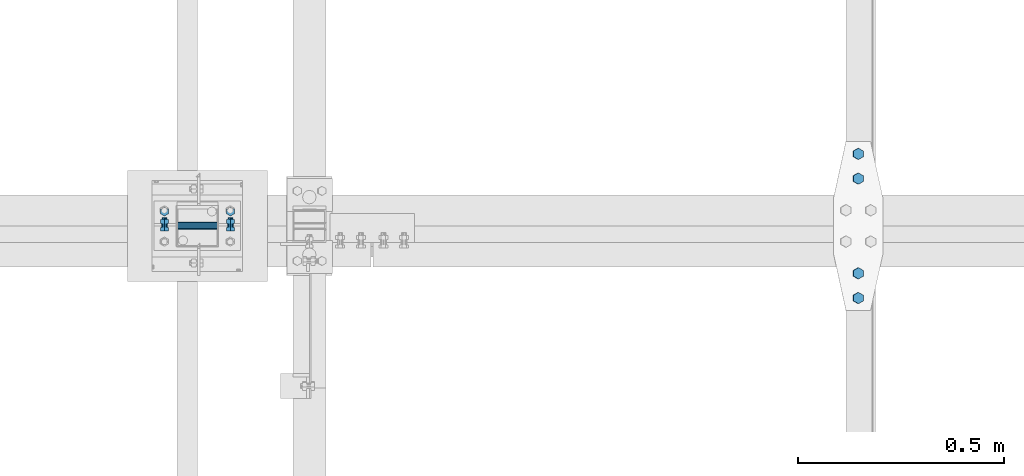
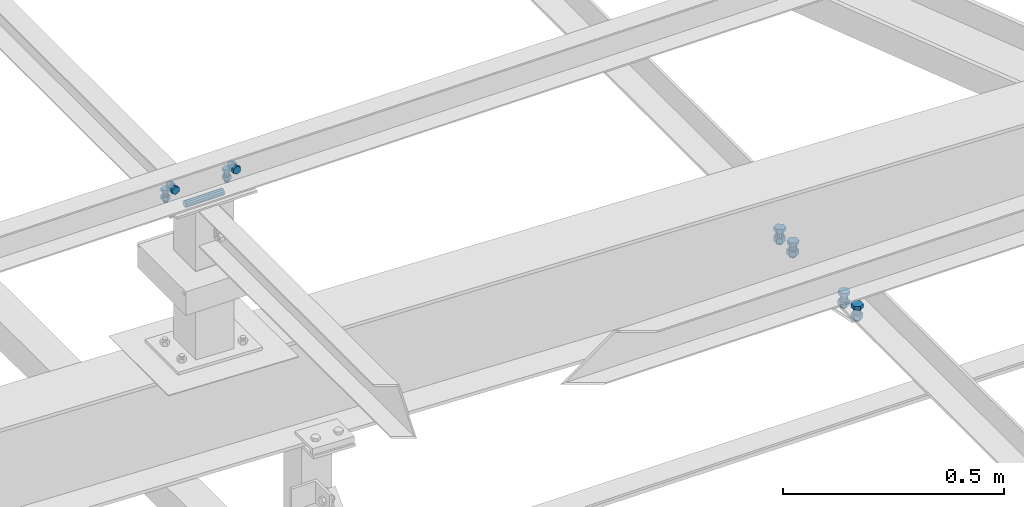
# One storey, part 40 of 3134: 5 mechanical fasteners, 4 elements without a shape of their own.
"""IFC2X3 building model written with IfcOpenShell, lengths in millimetres."""

import ifcopenshell
import ifcopenshell.guid

model = None  # the IFC model being written
_history = None  # IfcOwnerHistory: only IFC2X3 demands one
_inside = {}  # id of a spatial element -> (the spatial element, [elements in it])
_under = {}  # id of a project, library or spatial element -> (it, [spatial elements below it])
_declared = {}  # id of a project -> (the project, [libraries it declares])
_typed = {}  # id of a type object -> (the type object, [elements of that type])
_made_of = {}  # id of a material, layer set ... -> (it, [elements and type objects made of it])


def new_model(schema):
    """Start an empty IFC model of exactly this schema.

    Asked for "IFC4X3", IfcOpenShell would pick the latest addendum, in which some entities
    have other attributes; the version numbers below select the first issue.
    IFC2X3 requires an IfcOwnerHistory on every rooted entity: one is made here for all.
    """
    global model, _history
    if schema == "IFC4X3":
        model = ifcopenshell.file(schema_version=(4, 3, 0, 0))
    else:
        model = ifcopenshell.file(schema=schema)
    _inside.clear()
    _under.clear()
    _declared.clear()
    _typed.clear()
    _made_of.clear()
    _history = None
    if model.schema == "IFC2X3":
        org = make("IfcOrganization", Name="unknown")
        user = make(
            "IfcPersonAndOrganization",
            ThePerson=make("IfcPerson", FamilyName="unknown"),
            TheOrganization=org,
        )
        app = make(
            "IfcApplication",
            ApplicationDeveloper=org,
            Version="unknown",
            ApplicationFullName="unknown",
            ApplicationIdentifier="unknown",
        )
        _history = make(
            "IfcOwnerHistory",
            OwningUser=user,
            OwningApplication=app,
            ChangeAction="ADDED",
            CreationDate=0,
        )
    return model


def make(cls, **values):
    """One entity of the class cls with the attributes given. An attribute that is None is left unset."""
    return model.create_entity(
        cls, **{name: value for name, value in values.items() if value is not None}
    )


def rooted(cls, **values):
    """An entity with a GlobalId (a new one), such as an element, a storey or a relation."""
    return make(cls, GlobalId=ifcopenshell.guid.new(), OwnerHistory=_history, **values)


def si_unit(unit_type, name, prefix=None):
    """IfcSIUnit, for example si_unit("LENGTHUNIT", "METRE", prefix="MILLI")."""
    return make("IfcSIUnit", UnitType=unit_type, Prefix=prefix, Name=name)


def assignment(units):
    """IfcUnitAssignment: the units of a project."""
    return None if units is None else make("IfcUnitAssignment", Units=units)


def point(xyz):
    """IfcCartesianPoint."""
    return None if xyz is None else make("IfcCartesianPoint", Coordinates=xyz)


def direction(xyz):
    """IfcDirection."""
    return None if xyz is None else make("IfcDirection", DirectionRatios=xyz)


def frame(location, z_axis=None, x_axis=None):
    """IfcAxis2Placement3D, a coordinate frame: its origin and axes. An axis left out is left unset."""
    return make(
        "IfcAxis2Placement3D",
        Location=point(location),
        Axis=direction(z_axis),
        RefDirection=direction(x_axis),
    )


def origin_with_axes():
    """The frame at (0, 0, 0) with the z axis (0, 0, 1) and the x axis (1, 0, 0) written out."""
    return frame((0.0, 0.0, 0.0), z_axis=(0.0, 0.0, 1.0), x_axis=(1.0, 0.0, 0.0))


def place(relative_to, where):
    """IfcLocalPlacement: puts the frame where relative to a parent placement (None: the world)."""
    return make(
        "IfcLocalPlacement", PlacementRelTo=relative_to, RelativePlacement=where
    )


def context(
    kind, dimensions, precision=None, world=None, true_north=None, identifier=None
):
    """IfcGeometricRepresentationContext, for example the 3D "Model" context."""
    return make(
        "IfcGeometricRepresentationContext",
        ContextIdentifier=identifier,
        ContextType=kind,
        CoordinateSpaceDimension=dimensions,
        Precision=precision,
        WorldCoordinateSystem=world,
        TrueNorth=true_north,
    )


def subcontext(parent, identifier, kind, view, scale=None):
    """IfcGeometricRepresentationSubContext, for example "Body" below "Model"."""
    return make(
        "IfcGeometricRepresentationSubContext",
        ContextIdentifier=identifier,
        ContextType=kind,
        ParentContext=parent,
        TargetScale=scale,
        TargetView=view,
    )


def project(units=None, contexts=None):
    """IfcProject with its units and contexts."""
    return rooted(
        "IfcProject",
        Name="project",
        RepresentationContexts=contexts,
        UnitsInContext=assignment(units),
    )


def spatial(cls, under=None, at=None, **own):
    """A site, building, storey or space (cls), placed at a placement, below another one or the project."""
    s = rooted(cls, ObjectPlacement=at, **own)
    if under is not None:
        _under.setdefault(under.id(), (under, []))[1].append(s)
    return s


def faces_of(points, faces, orient=None, outer=None):
    """IfcFace entities. A face is a list of loops; a loop is a list of indices into points, from 0.

    orient and outer hold one flag for each loop. By default every Orientation is true, the
    first loop of a face is its IfcFaceOuterBound and the others are IfcFaceBound.
    """
    made = []
    for i, loops in enumerate(faces):
        bounds = []
        for j, loop in enumerate(loops):
            is_outer = j == 0 if outer is None else outer[i][j]
            bounds.append(
                make(
                    "IfcFaceOuterBound" if is_outer else "IfcFaceBound",
                    Bound=make("IfcPolyLoop", Polygon=[points[k] for k in loop]),
                    Orientation=True if orient is None else orient[i][j],
                )
            )
        made.append(make("IfcFace", Bounds=bounds))
    return made


def faceted_brep(points, faces, orient=None, outer=None, voids=None):
    """IfcFacetedBrep: a solid bounded by flat faces; with voids (closed shells), ...WithVoids."""
    shared = [point(p) for p in points]
    hull = make("IfcClosedShell", CfsFaces=faces_of(shared, faces, orient, outer))
    if voids is None:
        return make("IfcFacetedBrep", Outer=hull)
    return make(
        "IfcFacetedBrepWithVoids",
        Outer=hull,
        Voids=[
            make(cls, CfsFaces=faces_of(shared, fs, o, b)) for cls, fs, o, b in voids
        ],
    )


def shape(context_of_items, identifier, shape_type, items):
    """IfcShapeRepresentation: the items that make up one representation, for example the "Body"."""
    return make(
        "IfcShapeRepresentation",
        ContextOfItems=context_of_items,
        RepresentationIdentifier=identifier,
        RepresentationType=shape_type,
        Items=items,
    )


def source(mapping_origin, context_of_items, identifier, shape_type, items):
    """IfcRepresentationMap: a shape defined once, which mapped items show again and again."""
    return make(
        "IfcRepresentationMap",
        MappingOrigin=mapping_origin,
        MappedRepresentation=shape(context_of_items, identifier, shape_type, items),
    )


def transform(
    local_origin,
    x_axis=None,
    y_axis=None,
    z_axis=None,
    scale=None,
    scale2=None,
    scale3=None,
    uniform=True,
):
    """IfcCartesianTransformationOperator3D, or its non-uniform kind. x_axis, y_axis, z_axis: its Axis1, 2, 3."""
    if uniform:
        return make(
            "IfcCartesianTransformationOperator3D",
            Axis1=direction(x_axis),
            Axis2=direction(y_axis),
            LocalOrigin=point(local_origin),
            Scale=scale,
            Axis3=direction(z_axis),
        )
    return make(
        "IfcCartesianTransformationOperator3DnonUniform",
        Axis1=direction(x_axis),
        Axis2=direction(y_axis),
        LocalOrigin=point(local_origin),
        Scale=scale,
        Axis3=direction(z_axis),
        Scale2=scale2,
        Scale3=scale3,
    )


def mapped(mapping_source, mapping_target):
    """IfcMappedItem: shows the shape of a source again, moved by a transform."""
    return make(
        "IfcMappedItem", MappingSource=mapping_source, MappingTarget=mapping_target
    )


def material(Name=None, Category=None):
    """IfcMaterial."""
    return make("IfcMaterial", Name=Name, Category=Category)


def made_of(thing, what):
    """Note that an element or type object is made of a material, layer set ...; save() writes the relation."""
    if what is not None:
        _made_of.setdefault(what.id(), (what, []))[1].append(thing)
    return thing


def type_object(cls, material=None, **own):
    """A type object (cls), such as IfcWallType, which elements share."""
    return made_of(rooted(cls, **own), material)


def element(
    cls,
    number,
    at=None,
    inside=None,
    cuts=None,
    type_object=None,
    material=None,
    context=None,
    identifier="Body",
    shape_type=None,
    held_by="IfcProductDefinitionShape",
    body=None,
    shapes=None,
    **own,
):
    """One element of the class cls, such as IfcWall. Its Tag is "e" and its number.

    at: its placement. inside: the storey or other place that contains it. cuts: it is an
    opening in that element (IfcRelVoidsElement). A single representation is given by context,
    identifier, shape_type and body (its items); several are given by shapes. held_by: the class
    of the entity that holds the representations. save() writes the other relations.
    """
    e = rooted(cls, Tag="e%d" % number, ObjectPlacement=at, **own)
    if body is not None:
        shapes = [shape(context, identifier, shape_type, body)]
    if shapes is not None:
        e.Representation = make(held_by, Representations=shapes)
    if inside is not None:
        _inside.setdefault(inside.id(), (inside, []))[1].append(e)
    if cuts is not None:
        rooted(
            "IfcRelVoidsElement", RelatingBuildingElement=cuts, RelatedOpeningElement=e
        )
    if type_object is not None:
        _typed.setdefault(type_object.id(), (type_object, []))[1].append(e)
    return made_of(e, material)


def aggregate(whole, parts):
    """IfcRelAggregates: a whole, such as a stair, and the parts it consists of."""
    return rooted("IfcRelAggregates", RelatingObject=whole, RelatedObjects=parts)


def save(model, path):
    """Write the relations noted so far, then the file.

    IfcRelAggregates (storeys below a building ...), IfcRelContainedInSpatialStructure (elements
    in a storey), IfcRelDefinesByType, IfcRelAssociatesMaterial and IfcRelDeclares: one each for
    every whole, place, type object, material and project.
    """
    for whole, parts in _under.values():
        aggregate(whole, parts)
    for where, things in _inside.values():
        rooted(
            "IfcRelContainedInSpatialStructure",
            RelatedElements=things,
            RelatingStructure=where,
        )
    for kind, things in _typed.values():
        rooted("IfcRelDefinesByType", RelatedObjects=things, RelatingType=kind)
    for what, things in _made_of.values():
        rooted("IfcRelAssociatesMaterial", RelatedObjects=things, RelatingMaterial=what)
    for by, libraries in _declared.values():
        rooted("IfcRelDeclares", RelatingContext=by, RelatedDefinitions=libraries)
    model.write(path)


model = new_model("IFC2X3")

# Units and contexts
model_context = context("Model", 3, precision=1e-05, world=origin_with_axes())
body_context = subcontext(model_context, "Body", "Model", "MODEL_VIEW")
ifc_project = project(units=[si_unit("LENGTHUNIT", "METRE", prefix="MILLI"), si_unit("AREAUNIT", "SQUARE_METRE"), si_unit("VOLUMEUNIT", "CUBIC_METRE"), si_unit("MASSUNIT", "GRAM", prefix="KILO"), si_unit("TIMEUNIT", "SECOND"), si_unit("PLANEANGLEUNIT", "RADIAN"), si_unit("SOLIDANGLEUNIT", "STERADIAN"), si_unit("THERMODYNAMICTEMPERATUREUNIT", "DEGREE_CELSIUS"), si_unit("LUMINOUSINTENSITYUNIT", "LUMEN")], contexts=[model_context])

# Site, building, storey
site_placement = place(None, origin_with_axes())
site = spatial("IfcSite", under=ifc_project, at=site_placement, CompositionType="ELEMENT")
building_placement = place(site_placement, origin_with_axes())
building = spatial("IfcBuilding", under=site, at=building_placement, Name="Undefined", CompositionType="ELEMENT")
storey_placement = place(building_placement, origin_with_axes())
storey = spatial("IfcBuildingStorey", under=building, at=storey_placement, Name="Undefined", CompositionType="ELEMENT", Elevation=0.0)

# Assembly, mechanical fastener
assembly_1_placement = place(storey_placement, origin_with_axes())
assembly_1 = element("IfcElementAssembly", 1, at=assembly_1_placement, inside=storey, AssemblyPlace="NOTDEFINED", PredefinedType="RIGID_FRAME")
ifc_material = material(Name="8.8")
mechanical_fastener_type = type_object("IfcMechanicalFastenerType", Name="Bolt assembly")
shared_shape_1 = source(origin_with_axes(), body_context, "Body", "Brep", [
    faceted_brep([(10.9696551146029, -14.0, 0.0), (5.48482755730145, -14.0, 9.5), (-5.48482755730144, -14.0, 9.5), (-10.9696551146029, -14.0, 1.34339530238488e-15), (-5.48482755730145, -14.0, -9.5), (5.48482755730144, -14.0, -9.50000000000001), (5.48482755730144, -6.0, -9.50000000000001), (-5.48482755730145, -6.0, -9.5), (-10.9696551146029, -6.0, 1.34339530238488e-15), (-5.48482755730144, -6.0, 9.5), (5.48482755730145, -6.0, 9.5), (10.9696551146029, -6.0, 0.0), (6.0, -6.0, 0.0), (5.19615242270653, -6.0, 3.00000000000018), (2.99999999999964, -6.0, 5.19615242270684), (-6.21801588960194e-13, -6.0, 6.0), (-3.00000000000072, -6.0, 5.19615242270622), (-5.19615242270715, -6.0, 2.9999999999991), (-6.0, -6.0, -1.24360317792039e-12), (-5.19615242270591, -6.0, -3.00000000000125), (-2.99999999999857, -6.0, -5.19615242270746), (1.85874342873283e-12, -6.0, -6.0), (3.00000000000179, -6.0, -5.1961524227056), (5.19615242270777, -6.0, -2.99999999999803), (5.19615242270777, 24.0, -2.99999999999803), (3.00000000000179, 24.0, -5.1961524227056), (1.85874342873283e-12, 24.0, -6.0), (-2.99999999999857, 24.0, -5.19615242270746), (-5.19615242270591, 24.0, -3.00000000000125), (-6.0, 24.0, -1.24360317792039e-12), (-5.19615242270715, 24.0, 2.9999999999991), (-3.00000000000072, 24.0, 5.19615242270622), (-6.21801588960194e-13, 24.0, 6.0), (2.99999999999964, 24.0, 5.19615242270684), (5.19615242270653, 24.0, 3.00000000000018), (6.0, 24.0, 0.0), (10.9696551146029, 6.00000000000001, 0.0), (5.48482755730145, 6.00000000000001, 9.5), (-5.48482755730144, 6.00000000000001, 9.5), (-10.9696551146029, 6.00000000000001, 1.34339530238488e-15), (-5.48482755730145, 6.00000000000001, -9.5), (5.48482755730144, 6.00000000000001, -9.50000000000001), (5.48482755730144, 16.0, -9.50000000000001), (-5.48482755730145, 16.0, -9.5), (-10.9696551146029, 16.0, 1.34339530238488e-15), (-5.48482755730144, 16.0, 9.5), (5.48482755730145, 16.0, 9.5), (10.9696551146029, 16.0, 0.0)], [[[0, 1, 2, 3, 4, 5]], [[6, 7, 8, 9, 10, 11]], [[0, 11, 10, 1]], [[1, 10, 9, 2]], [[2, 9, 8, 3]], [[3, 8, 7, 4]], [[4, 7, 6, 5]], [[5, 6, 11, 0]], [[12, 13, 14, 15, 16, 17, 18, 19, 20, 21, 22, 23]], [[24, 25, 26, 27, 28, 29, 30, 31, 32, 33, 34, 35]], [[12, 35, 34, 13]], [[13, 34, 33, 14]], [[14, 33, 32, 15]], [[15, 32, 31, 16]], [[16, 31, 30, 17]], [[17, 30, 29, 18]], [[18, 29, 28, 19]], [[19, 28, 27, 20]], [[20, 27, 26, 21]], [[21, 26, 25, 22]], [[22, 25, 24, 23]], [[23, 24, 35, 12]], [[36, 37, 38, 39, 40, 41]], [[42, 43, 44, 45, 46, 47]], [[36, 47, 46, 37]], [[37, 46, 45, 38]], [[38, 45, 44, 39]], [[39, 44, 43, 40]], [[40, 43, 42, 41]], [[41, 42, 47, 36]]]),
    faceted_brep([(7.0, -0.1, 0.0), (6.06217782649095, -0.1, 3.50000000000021), (3.49999999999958, -0.1, 6.06217782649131), (-7.25435187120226e-13, -0.1, 7.0), (-3.50000000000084, -0.1, 6.06217782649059), (-6.06217782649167, -0.1, 3.49999999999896), (-7.0, -0.1, -1.45087037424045e-12), (-6.06217782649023, -0.1, -3.50000000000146), (-3.49999999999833, -0.1, -6.06217782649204), (2.1685340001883e-12, -0.1, -7.0), (3.50000000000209, -0.1, -6.06217782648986), (6.0621778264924, -0.1, -3.4999999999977), (6.0621778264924, 6.00000000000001, -3.4999999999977), (3.50000000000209, 6.00000000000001, -6.06217782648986), (2.1685340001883e-12, 6.00000000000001, -7.0), (-3.49999999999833, 6.00000000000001, -6.06217782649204), (-6.06217782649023, 6.00000000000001, -3.50000000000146), (-7.0, 6.00000000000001, -1.45087037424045e-12), (-6.06217782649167, 6.00000000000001, 3.49999999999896), (-3.50000000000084, 6.00000000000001, 6.06217782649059), (-7.25435187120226e-13, 6.00000000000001, 7.0), (3.49999999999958, 6.00000000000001, 6.06217782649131), (6.06217782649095, 6.00000000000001, 3.50000000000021), (7.0, 6.00000000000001, 0.0), (7.0, -5.9, 0.0), (6.06217782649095, -5.9, 3.50000000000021), (3.49999999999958, -5.9, 6.06217782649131), (-7.25435187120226e-13, -5.9, 7.0), (-3.50000000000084, -5.9, 6.06217782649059), (-6.06217782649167, -5.9, 3.49999999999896), (-7.0, -5.9, -1.45087037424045e-12), (-6.06217782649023, -5.9, -3.50000000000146), (-3.49999999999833, -5.9, -6.06217782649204), (2.1685340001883e-12, -5.9, -7.0), (3.50000000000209, -5.9, -6.06217782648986), (6.0621778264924, -5.9, -3.4999999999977), (6.0621778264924, 0.0999999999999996, -3.4999999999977), (3.50000000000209, 0.0999999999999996, -6.06217782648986), (2.1685340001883e-12, 0.0999999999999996, -7.0), (-3.49999999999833, 0.0999999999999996, -6.06217782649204), (-6.06217782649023, 0.0999999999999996, -3.50000000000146), (-7.0, 0.0999999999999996, -1.45087037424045e-12), (-6.06217782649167, 0.0999999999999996, 3.49999999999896), (-3.50000000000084, 0.0999999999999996, 6.06217782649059), (-7.25435187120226e-13, 0.0999999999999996, 7.0), (3.49999999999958, 0.0999999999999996, 6.06217782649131), (6.06217782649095, 0.0999999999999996, 3.50000000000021), (7.0, 0.0999999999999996, 0.0)], [[[0, 1, 2, 3, 4, 5, 6, 7, 8, 9, 10, 11]], [[12, 13, 14, 15, 16, 17, 18, 19, 20, 21, 22, 23]], [[0, 23, 22, 1]], [[1, 22, 21, 2]], [[2, 21, 20, 3]], [[3, 20, 19, 4]], [[4, 19, 18, 5]], [[5, 18, 17, 6]], [[6, 17, 16, 7]], [[7, 16, 15, 8]], [[8, 15, 14, 9]], [[9, 14, 13, 10]], [[10, 13, 12, 11]], [[11, 12, 23, 0]], [[24, 25, 26, 27, 28, 29, 30, 31, 32, 33, 34, 35]], [[36, 37, 38, 39, 40, 41, 42, 43, 44, 45, 46, 47]], [[24, 47, 46, 25]], [[25, 46, 45, 26]], [[26, 45, 44, 27]], [[27, 44, 43, 28]], [[28, 43, 42, 29]], [[29, 42, 41, 30]], [[30, 41, 40, 31]], [[31, 40, 39, 32]], [[32, 39, 38, 33]], [[33, 38, 37, 34]], [[34, 37, 36, 35]], [[35, 36, 47, 24]]]),
])
mechanical_fastener_1_placement = place(assembly_1_placement, frame((3043.33, 15225.0, 4365.0), z_axis=(1.0, 0.0, 0.0), x_axis=(0.0, -1.0, 0.0)))
mechanical_fastener_1 = element("IfcMechanicalFastener", 2, at=mechanical_fastener_1_placement, type_object=mechanical_fastener_type, material=ifc_material, Name="Bolt assembly", NominalDiameter=12.0, NominalLength=30.0, context=body_context, shape_type="MappedRepresentation", body=[
    mapped(shared_shape_1, transform((0.0, -5.32963895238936e-10, -79.9999999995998))),
    mapped(shared_shape_1, transform((0.0, 5.3114490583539e-10, 79.9999999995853))),
])

assembly_2_placement = place(storey_placement, origin_with_axes())
assembly_2 = element("IfcElementAssembly", 3, at=assembly_2_placement, inside=storey, Name="PL8", AssemblyPlace="NOTDEFINED", PredefinedType="RIGID_FRAME")
shared_shape_2 = source(origin_with_axes(), body_context, "Body", "Brep", [
    faceted_brep([(13.856406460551, -21.0000017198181, 0.0), (6.92820323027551, -21.0000017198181, 12.0), (-6.92820323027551, -21.0000017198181, 12.0), (-13.856406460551, -21.0000017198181, 1.69692038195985e-15), (-6.92820323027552, -21.0000017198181, -12.0), (6.9282032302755, -21.0000017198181, -12.0), (6.9282032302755, -11.0000017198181, -12.0), (-6.92820323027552, -11.0000017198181, -12.0), (-13.856406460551, -11.0000017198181, 1.69692038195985e-15), (-6.92820323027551, -11.0000017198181, 12.0), (6.92820323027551, -11.0000017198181, 12.0), (13.856406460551, -11.0000017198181, 0.0), (8.0, -11.0000017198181, 0.0), (6.92820323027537, -11.0000017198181, 4.00000000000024), (3.99999999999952, -11.0000017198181, 6.92820323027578), (-8.29068785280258e-13, -11.0000017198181, 8.0), (-4.00000000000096, -11.0000017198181, 6.92820323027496), (-6.9282032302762, -11.0000017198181, 3.99999999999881), (-8.0, -11.0000017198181, -1.65813757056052e-12), (-6.92820323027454, -11.0000017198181, -4.00000000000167), (-3.99999999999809, -11.0000017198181, -6.92820323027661), (2.47832457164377e-12, -11.0000017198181, -8.0), (4.00000000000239, -11.0000017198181, -6.92820323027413), (6.92820323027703, -11.0000017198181, -3.99999999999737), (6.92820323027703, 23.9999999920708, -3.99999999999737), (4.00000000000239, 23.9999999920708, -6.92820323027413), (2.47832457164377e-12, 23.9999999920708, -8.0), (-3.99999999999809, 23.9999999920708, -6.92820323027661), (-6.92820323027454, 23.9999999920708, -4.00000000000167), (-8.0, 23.9999999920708, -1.65813757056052e-12), (-6.9282032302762, 23.9999999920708, 3.99999999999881), (-4.00000000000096, 23.9999999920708, 6.92820323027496), (-8.29068785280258e-13, 23.9999999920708, 8.0), (3.99999999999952, 23.9999999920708, 6.92820323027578), (6.92820323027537, 23.9999999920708, 4.00000000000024), (8.0, 23.9999999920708, 0.0), (13.856406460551, 3.99999999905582, 0.0), (6.92820323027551, 3.99999999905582, 12.0), (-6.92820323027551, 3.99999999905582, 12.0), (-13.856406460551, 3.99999999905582, 1.69692038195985e-15), (-6.92820323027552, 3.99999999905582, -12.0), (6.9282032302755, 3.99999999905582, -12.0), (6.9282032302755, 16.9999999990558, -12.0), (-6.92820323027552, 16.9999999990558, -12.0), (-13.856406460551, 16.9999999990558, 1.69692038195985e-15), (-6.92820323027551, 16.9999999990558, 12.0), (6.92820323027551, 16.9999999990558, 12.0), (13.856406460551, 16.9999999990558, 0.0)], [[[0, 1, 2, 3, 4, 5]], [[6, 7, 8, 9, 10, 11]], [[0, 11, 10, 1]], [[1, 10, 9, 2]], [[2, 9, 8, 3]], [[3, 8, 7, 4]], [[4, 7, 6, 5]], [[5, 6, 11, 0]], [[12, 13, 14, 15, 16, 17, 18, 19, 20, 21, 22, 23]], [[24, 25, 26, 27, 28, 29, 30, 31, 32, 33, 34, 35]], [[12, 35, 34, 13]], [[13, 34, 33, 14]], [[14, 33, 32, 15]], [[15, 32, 31, 16]], [[16, 31, 30, 17]], [[17, 30, 29, 18]], [[18, 29, 28, 19]], [[19, 28, 27, 20]], [[20, 27, 26, 21]], [[21, 26, 25, 22]], [[22, 25, 24, 23]], [[23, 24, 35, 12]], [[36, 37, 38, 39, 40, 41]], [[42, 43, 44, 45, 46, 47]], [[36, 47, 46, 37]], [[37, 46, 45, 38]], [[38, 45, 44, 39]], [[39, 44, 43, 40]], [[40, 43, 42, 41]], [[41, 42, 47, 36]]]),
    faceted_brep([(9.0, -10.9000017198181, 0.0), (7.79422863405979, -10.9000017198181, 4.50000000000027), (4.49999999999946, -10.9000017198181, 7.79422863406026), (-9.3270238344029e-13, -10.9000017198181, 9.0), (-4.50000000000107, -10.9000017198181, 7.79422863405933), (-7.79422863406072, -10.9000017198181, 4.49999999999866), (-9.0, -10.9000017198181, -1.86540476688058e-12), (-7.79422863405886, -10.9000017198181, -4.50000000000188), (-4.49999999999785, -10.9000017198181, -7.79422863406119), (2.78811514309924e-12, -10.9000017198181, -9.0), (4.50000000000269, -10.9000017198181, -7.7942286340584), (7.79422863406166, -10.9000017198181, -4.49999999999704), (7.79422863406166, -3.9, -4.49999999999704), (4.50000000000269, -3.9, -7.7942286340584), (2.78811514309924e-12, -3.9, -9.0), (-4.49999999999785, -3.9, -7.79422863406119), (-7.79422863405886, -3.9, -4.50000000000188), (-9.0, -3.9, -1.86540476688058e-12), (-7.79422863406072, -3.9, 4.49999999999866), (-4.50000000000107, -3.9, 7.79422863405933), (-9.3270238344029e-13, -3.9, 9.0), (4.49999999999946, -3.9, 7.79422863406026), (7.79422863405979, -3.9, 4.50000000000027), (9.0, -3.9, 0.0), (9.0, -4.10000000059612, 0.0), (7.79422863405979, -4.10000000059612, 4.50000000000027), (4.49999999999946, -4.10000000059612, 7.79422863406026), (-9.3270238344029e-13, -4.10000000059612, 9.0), (-4.50000000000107, -4.10000000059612, 7.79422863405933), (-7.79422863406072, -4.10000000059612, 4.49999999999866), (-9.0, -4.10000000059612, -1.86540476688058e-12), (-7.79422863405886, -4.10000000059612, -4.50000000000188), (-4.49999999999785, -4.10000000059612, -7.79422863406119), (2.78811514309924e-12, -4.10000000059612, -9.0), (4.50000000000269, -4.10000000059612, -7.7942286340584), (7.79422863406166, -4.10000000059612, -4.49999999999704), (7.79422863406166, 4.00000375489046, -4.49999999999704), (4.50000000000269, 4.00000375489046, -7.7942286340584), (2.78811514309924e-12, 4.00000375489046, -9.0), (-4.49999999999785, 4.00000375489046, -7.79422863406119), (-7.79422863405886, 4.00000375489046, -4.50000000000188), (-9.0, 4.00000375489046, -1.86540476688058e-12), (-7.79422863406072, 4.00000375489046, 4.49999999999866), (-4.50000000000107, 4.00000375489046, 7.79422863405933), (-9.3270238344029e-13, 4.00000375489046, 9.0), (4.49999999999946, 4.00000375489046, 7.79422863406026), (7.79422863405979, 4.00000375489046, 4.50000000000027), (9.0, 4.00000375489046, 0.0)], [[[0, 1, 2, 3, 4, 5, 6, 7, 8, 9, 10, 11]], [[12, 13, 14, 15, 16, 17, 18, 19, 20, 21, 22, 23]], [[0, 23, 22, 1]], [[1, 22, 21, 2]], [[2, 21, 20, 3]], [[3, 20, 19, 4]], [[4, 19, 18, 5]], [[5, 18, 17, 6]], [[6, 17, 16, 7]], [[7, 16, 15, 8]], [[8, 15, 14, 9]], [[9, 14, 13, 10]], [[10, 13, 12, 11]], [[11, 12, 23, 0]], [[24, 25, 26, 27, 28, 29, 30, 31, 32, 33, 34, 35]], [[36, 37, 38, 39, 40, 41, 42, 43, 44, 45, 46, 47]], [[24, 47, 46, 25]], [[25, 46, 45, 26]], [[26, 45, 44, 27]], [[27, 44, 43, 28]], [[28, 43, 42, 29]], [[29, 42, 41, 30]], [[30, 41, 40, 31]], [[31, 40, 39, 32]], [[32, 39, 38, 33]], [[33, 38, 37, 34]], [[34, 37, 36, 35]], [[35, 36, 47, 24]]]),
])
mechanical_fastener_2_placement = place(assembly_2_placement, frame((4647.50483525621, 15305.0, 3576.15051900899), z_axis=(-0.999388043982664, 0.0, 0.0349791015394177), x_axis=(0.0, 1.0, 0.0)))
mechanical_fastener_2 = element("IfcMechanicalFastener", 4, at=mechanical_fastener_2_placement, type_object=mechanical_fastener_type, material=ifc_material, Name="Bolt assembly", NominalDiameter=16.0, NominalLength=35.0, context=body_context, shape_type="MappedRepresentation", body=[
    mapped(shared_shape_2, transform((0.0, 0.0, 0.0))),
    mapped(shared_shape_2, transform((59.9999999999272, 0.0, 5.40239852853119e-10))),
])
aggregate(assembly_2, [mechanical_fastener_2])

assembly_3_placement = place(storey_placement, origin_with_axes())
assembly_3 = element("IfcElementAssembly", 5, at=assembly_3_placement, inside=storey, AssemblyPlace="NOTDEFINED", PredefinedType="RIGID_FRAME")
shared_shape_3 = source(origin_with_axes(), body_context, "Body", "Brep", [
    faceted_brep([(13.856406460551, -21.0000017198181, 0.0), (6.92820323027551, -21.0000017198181, 12.0), (-6.92820323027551, -21.0000017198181, 12.0), (-13.856406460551, -21.0000017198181, 1.69692038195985e-15), (-6.92820323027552, -21.0000017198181, -12.0), (6.9282032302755, -21.0000017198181, -12.0), (6.9282032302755, -11.0000017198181, -12.0), (-6.92820323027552, -11.0000017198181, -12.0), (-13.856406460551, -11.0000017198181, 1.69692038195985e-15), (-6.92820323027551, -11.0000017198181, 12.0), (6.92820323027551, -11.0000017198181, 12.0), (13.856406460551, -11.0000017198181, 0.0), (8.0, -11.0000017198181, 0.0), (6.92820323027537, -11.0000017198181, 4.00000000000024), (3.99999999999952, -11.0000017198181, 6.92820323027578), (-8.29068785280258e-13, -11.0000017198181, 8.0), (-4.00000000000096, -11.0000017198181, 6.92820323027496), (-6.9282032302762, -11.0000017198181, 3.99999999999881), (-8.0, -11.0000017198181, -1.65813757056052e-12), (-6.92820323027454, -11.0000017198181, -4.00000000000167), (-3.99999999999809, -11.0000017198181, -6.92820323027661), (2.47832457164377e-12, -11.0000017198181, -8.0), (4.00000000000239, -11.0000017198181, -6.92820323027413), (6.92820323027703, -11.0000017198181, -3.99999999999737), (6.92820323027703, 23.9999999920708, -3.99999999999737), (4.00000000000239, 23.9999999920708, -6.92820323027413), (2.47832457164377e-12, 23.9999999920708, -8.0), (-3.99999999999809, 23.9999999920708, -6.92820323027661), (-6.92820323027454, 23.9999999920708, -4.00000000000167), (-8.0, 23.9999999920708, -1.65813757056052e-12), (-6.9282032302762, 23.9999999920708, 3.99999999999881), (-4.00000000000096, 23.9999999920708, 6.92820323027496), (-8.29068785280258e-13, 23.9999999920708, 8.0), (3.99999999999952, 23.9999999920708, 6.92820323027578), (6.92820323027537, 23.9999999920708, 4.00000000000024), (8.0, 23.9999999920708, 0.0), (13.856406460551, 3.99999999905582, 0.0), (6.92820323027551, 3.99999999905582, 12.0), (-6.92820323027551, 3.99999999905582, 12.0), (-13.856406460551, 3.99999999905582, 1.69692038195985e-15), (-6.92820323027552, 3.99999999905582, -12.0), (6.9282032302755, 3.99999999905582, -12.0), (6.9282032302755, 16.9999999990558, -12.0), (-6.92820323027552, 16.9999999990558, -12.0), (-13.856406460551, 16.9999999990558, 1.69692038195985e-15), (-6.92820323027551, 16.9999999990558, 12.0), (6.92820323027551, 16.9999999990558, 12.0), (13.856406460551, 16.9999999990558, 0.0)], [[[0, 1, 2, 3, 4, 5]], [[6, 7, 8, 9, 10, 11]], [[0, 11, 10, 1]], [[1, 10, 9, 2]], [[2, 9, 8, 3]], [[3, 8, 7, 4]], [[4, 7, 6, 5]], [[5, 6, 11, 0]], [[12, 13, 14, 15, 16, 17, 18, 19, 20, 21, 22, 23]], [[24, 25, 26, 27, 28, 29, 30, 31, 32, 33, 34, 35]], [[12, 35, 34, 13]], [[13, 34, 33, 14]], [[14, 33, 32, 15]], [[15, 32, 31, 16]], [[16, 31, 30, 17]], [[17, 30, 29, 18]], [[18, 29, 28, 19]], [[19, 28, 27, 20]], [[20, 27, 26, 21]], [[21, 26, 25, 22]], [[22, 25, 24, 23]], [[23, 24, 35, 12]], [[36, 37, 38, 39, 40, 41]], [[42, 43, 44, 45, 46, 47]], [[36, 47, 46, 37]], [[37, 46, 45, 38]], [[38, 45, 44, 39]], [[39, 44, 43, 40]], [[40, 43, 42, 41]], [[41, 42, 47, 36]]]),
    faceted_brep([(9.0, -4.10000000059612, 0.0), (7.79422863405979, -4.10000000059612, 4.50000000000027), (4.49999999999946, -4.10000000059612, 7.79422863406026), (-9.3270238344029e-13, -4.10000000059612, 9.0), (-4.50000000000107, -4.10000000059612, 7.79422863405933), (-7.79422863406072, -4.10000000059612, 4.49999999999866), (-9.0, -4.10000000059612, -1.86540476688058e-12), (-7.79422863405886, -4.10000000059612, -4.50000000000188), (-4.49999999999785, -4.10000000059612, -7.79422863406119), (2.78811514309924e-12, -4.10000000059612, -9.0), (4.50000000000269, -4.10000000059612, -7.7942286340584), (7.79422863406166, -4.10000000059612, -4.49999999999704), (7.79422863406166, 4.00000375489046, -4.49999999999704), (4.50000000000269, 4.00000375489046, -7.7942286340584), (2.78811514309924e-12, 4.00000375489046, -9.0), (-4.49999999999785, 4.00000375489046, -7.79422863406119), (-7.79422863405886, 4.00000375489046, -4.50000000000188), (-9.0, 4.00000375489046, -1.86540476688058e-12), (-7.79422863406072, 4.00000375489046, 4.49999999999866), (-4.50000000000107, 4.00000375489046, 7.79422863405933), (-9.3270238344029e-13, 4.00000375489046, 9.0), (4.49999999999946, 4.00000375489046, 7.79422863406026), (7.79422863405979, 4.00000375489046, 4.50000000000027), (9.0, 4.00000375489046, 0.0), (9.0, -10.9000017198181, 0.0), (7.79422863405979, -10.9000017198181, 4.50000000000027), (4.49999999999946, -10.9000017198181, 7.79422863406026), (-9.3270238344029e-13, -10.9000017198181, 9.0), (-4.50000000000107, -10.9000017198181, 7.79422863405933), (-7.79422863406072, -10.9000017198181, 4.49999999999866), (-9.0, -10.9000017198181, -1.86540476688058e-12), (-7.79422863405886, -10.9000017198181, -4.50000000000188), (-4.49999999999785, -10.9000017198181, -7.79422863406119), (2.78811514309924e-12, -10.9000017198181, -9.0), (4.50000000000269, -10.9000017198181, -7.7942286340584), (7.79422863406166, -10.9000017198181, -4.49999999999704), (7.79422863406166, -3.9, -4.49999999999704), (4.50000000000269, -3.9, -7.7942286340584), (2.78811514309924e-12, -3.9, -9.0), (-4.49999999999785, -3.9, -7.79422863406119), (-7.79422863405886, -3.9, -4.50000000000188), (-9.0, -3.9, -1.86540476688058e-12), (-7.79422863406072, -3.9, 4.49999999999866), (-4.50000000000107, -3.9, 7.79422863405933), (-9.3270238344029e-13, -3.9, 9.0), (4.49999999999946, -3.9, 7.79422863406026), (7.79422863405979, -3.9, 4.50000000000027), (9.0, -3.9, 0.0)], [[[0, 1, 2, 3, 4, 5, 6, 7, 8, 9, 10, 11]], [[12, 13, 14, 15, 16, 17, 18, 19, 20, 21, 22, 23]], [[0, 23, 22, 1]], [[1, 22, 21, 2]], [[2, 21, 20, 3]], [[3, 20, 19, 4]], [[4, 19, 18, 5]], [[5, 18, 17, 6]], [[6, 17, 16, 7]], [[7, 16, 15, 8]], [[8, 15, 14, 9]], [[9, 14, 13, 10]], [[10, 13, 12, 11]], [[11, 12, 23, 0]], [[24, 25, 26, 27, 28, 29, 30, 31, 32, 33, 34, 35]], [[36, 37, 38, 39, 40, 41, 42, 43, 44, 45, 46, 47]], [[24, 47, 46, 25]], [[25, 46, 45, 26]], [[26, 45, 44, 27]], [[27, 44, 43, 28]], [[28, 43, 42, 29]], [[29, 42, 41, 30]], [[30, 41, 40, 31]], [[31, 40, 39, 32]], [[32, 39, 38, 33]], [[33, 38, 37, 34]], [[34, 37, 36, 35]], [[35, 36, 47, 24]]]),
])
mechanical_fastener_3_placement = place(assembly_3_placement, frame((4647.50483526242, 15015.0, 3576.15051900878), z_axis=(-0.999388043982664, 0.0, 0.0349791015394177), x_axis=(0.0, 1.0, 0.0)))
mechanical_fastener_3 = element("IfcMechanicalFastener", 6, at=mechanical_fastener_3_placement, type_object=mechanical_fastener_type, material=ifc_material, Name="Bolt assembly", NominalDiameter=16.0, NominalLength=35.0, context=body_context, shape_type="MappedRepresentation", body=[
    mapped(shared_shape_3, transform((0.0, 0.0, 0.0))),
    mapped(shared_shape_3, transform((59.9999999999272, 0.0, 5.40239852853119e-10))),
])
aggregate(assembly_3, [mechanical_fastener_3])

assembly_4_placement = place(storey_placement, origin_with_axes())
assembly_4 = element("IfcElementAssembly", 7, at=assembly_4_placement, inside=storey, AssemblyPlace="NOTDEFINED", PredefinedType="RIGID_FRAME")
shared_shape_4 = source(origin_with_axes(), body_context, "Body", "Brep", [
    faceted_brep([(9.0, -50.0, 0.0), (7.79422863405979, -50.0, 4.50000000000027), (4.49999999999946, -50.0, 7.79422863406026), (-9.3270238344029e-13, -50.0, 9.0), (-4.50000000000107, -50.0, 7.79422863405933), (-7.79422863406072, -50.0, 4.49999999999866), (-9.0, -50.0, -1.86540476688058e-12), (-7.79422863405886, -50.0, -4.50000000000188), (-4.49999999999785, -50.0, -7.79422863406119), (2.78811514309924e-12, -50.0, -9.0), (4.50000000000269, -50.0, -7.7942286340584), (7.79422863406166, -50.0, -4.49999999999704), (7.79422863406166, 50.1, -4.49999999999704), (4.50000000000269, 50.1, -7.7942286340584), (2.78811514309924e-12, 50.1, -9.0), (-4.49999999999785, 50.1, -7.79422863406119), (-7.79422863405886, 50.1, -4.50000000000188), (-9.0, 50.1, -1.86540476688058e-12), (-7.79422863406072, 50.1, 4.49999999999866), (-4.50000000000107, 50.1, 7.79422863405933), (-9.3270238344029e-13, 50.1, 9.0), (4.49999999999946, 50.1, 7.79422863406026), (7.79422863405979, 50.1, 4.50000000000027), (9.0, 50.1, 0.0)], [[[0, 1, 2, 3, 4, 5, 6, 7, 8, 9, 10, 11]], [[12, 13, 14, 15, 16, 17, 18, 19, 20, 21, 22, 23]], [[0, 23, 22, 1]], [[1, 22, 21, 2]], [[2, 21, 20, 3]], [[3, 20, 19, 4]], [[4, 19, 18, 5]], [[5, 18, 17, 6]], [[6, 17, 16, 7]], [[7, 16, 15, 8]], [[8, 15, 14, 9]], [[9, 14, 13, 10]], [[10, 13, 12, 11]], [[11, 12, 23, 0]]]),
])
mechanical_fastener_4_placement = place(assembly_4_placement, frame((3043.33, 15190.0, 4345.0), z_axis=(0.0, 1.0, 0.0), x_axis=(0.0, 0.0, 1.0)))
mechanical_fastener_4 = element("IfcMechanicalFastener", 8, at=mechanical_fastener_4_placement, type_object=mechanical_fastener_type, material=ifc_material, Name="Bolt assembly", NominalDiameter=16.0, NominalLength=100.0, context=body_context, shape_type="MappedRepresentation", body=[
    mapped(shared_shape_4, transform((0.0, 0.0, 0.0))),
])
aggregate(assembly_4, [mechanical_fastener_4])

# Mechanical fastener
shared_shape_5 = source(origin_with_axes(), body_context, "Body", "Brep", [
    faceted_brep([(10.9696551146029, -12.0003169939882, 0.0), (5.48482755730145, -12.0003169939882, 9.5), (-5.48482755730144, -12.0003169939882, 9.5), (-10.9696551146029, -12.0003169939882, 1.34339530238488e-15), (-5.48482755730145, -12.0003169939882, -9.5), (5.48482755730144, -12.0003169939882, -9.50000000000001), (5.48482755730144, -4.00031699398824, -9.50000000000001), (-5.48482755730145, -4.00031699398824, -9.5), (-10.9696551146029, -4.00031699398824, 1.34339530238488e-15), (-5.48482755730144, -4.00031699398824, 9.5), (5.48482755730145, -4.00031699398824, 9.5), (10.9696551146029, -4.00031699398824, 0.0), (6.0, -4.00031699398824, 0.0), (5.19615242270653, -4.00031699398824, 3.00000000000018), (2.99999999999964, -4.00031699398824, 5.19615242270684), (-6.21801588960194e-13, -4.00031699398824, 6.0), (-3.00000000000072, -4.00031699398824, 5.19615242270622), (-5.19615242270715, -4.00031699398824, 2.9999999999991), (-6.0, -4.00031699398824, -1.24360317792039e-12), (-5.19615242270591, -4.00031699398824, -3.00000000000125), (-2.99999999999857, -4.00031699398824, -5.19615242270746), (1.85874342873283e-12, -4.00031699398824, -6.0), (3.00000000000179, -4.00031699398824, -5.1961524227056), (5.19615242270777, -4.00031699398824, -2.99999999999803), (5.19615242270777, 20.9997148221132, -2.99999999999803), (3.00000000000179, 20.9997148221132, -5.1961524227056), (1.85874342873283e-12, 20.9997148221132, -6.0), (-2.99999999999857, 20.9997148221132, -5.19615242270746), (-5.19615242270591, 20.9997148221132, -3.00000000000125), (-6.0, 20.9997148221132, -1.24360317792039e-12), (-5.19615242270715, 20.9997148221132, 2.9999999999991), (-3.00000000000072, 20.9997148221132, 5.19615242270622), (-6.21801588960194e-13, 20.9997148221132, 6.0), (2.99999999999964, 20.9997148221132, 5.19615242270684), (5.19615242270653, 20.9997148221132, 3.00000000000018), (6.0, 20.9997148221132, 0.0), (10.9696551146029, 6.00000000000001, 0.0), (5.48482755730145, 6.00000000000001, 9.5), (-5.48482755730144, 6.00000000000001, 9.5), (-10.9696551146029, 6.00000000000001, 1.34339530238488e-15), (-5.48482755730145, 6.00000000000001, -9.5), (5.48482755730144, 6.00000000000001, -9.50000000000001), (5.48482755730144, 16.0, -9.50000000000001), (-5.48482755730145, 16.0, -9.5), (-10.9696551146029, 16.0, 1.34339530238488e-15), (-5.48482755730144, 16.0, 9.5), (5.48482755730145, 16.0, 9.5), (10.9696551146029, 16.0, 0.0)], [[[0, 1, 2, 3, 4, 5]], [[6, 7, 8, 9, 10, 11]], [[0, 11, 10, 1]], [[1, 10, 9, 2]], [[2, 9, 8, 3]], [[3, 8, 7, 4]], [[4, 7, 6, 5]], [[5, 6, 11, 0]], [[12, 13, 14, 15, 16, 17, 18, 19, 20, 21, 22, 23]], [[24, 25, 26, 27, 28, 29, 30, 31, 32, 33, 34, 35]], [[12, 35, 34, 13]], [[13, 34, 33, 14]], [[14, 33, 32, 15]], [[15, 32, 31, 16]], [[16, 31, 30, 17]], [[17, 30, 29, 18]], [[18, 29, 28, 19]], [[19, 28, 27, 20]], [[20, 27, 26, 21]], [[21, 26, 25, 22]], [[22, 25, 24, 23]], [[23, 24, 35, 12]], [[36, 37, 38, 39, 40, 41]], [[42, 43, 44, 45, 46, 47]], [[36, 47, 46, 37]], [[37, 46, 45, 38]], [[38, 45, 44, 39]], [[39, 44, 43, 40]], [[40, 43, 42, 41]], [[41, 42, 47, 36]]]),
    faceted_brep([(7.0, -3.90031233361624, 0.0), (6.06217782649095, -3.90027629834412, 3.50000000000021), (3.49999999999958, -3.90031233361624, 6.06217782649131), (-7.25435187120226e-13, -3.90027629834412, 7.0), (-3.50000000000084, -3.90027629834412, 6.06217782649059), (-6.06217782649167, -3.90027629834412, 3.49999999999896), (-7.0, -3.90031233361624, -1.45087037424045e-12), (-6.06217782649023, -3.90027629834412, -3.50000000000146), (-3.49999999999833, -3.90027629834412, -6.06217782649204), (2.1685340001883e-12, -3.90027629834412, -7.0), (3.50000000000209, -3.90027629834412, -6.06217782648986), (6.0621778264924, -3.90031233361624, -3.4999999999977), (6.0621778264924, 0.0996830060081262, -3.4999999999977), (3.50000000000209, 0.0996830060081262, -6.06217782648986), (2.1685340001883e-12, 0.0996830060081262, -7.0), (-3.49999999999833, 0.0996830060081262, -6.06217782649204), (-6.06217782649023, 0.0996830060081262, -3.50000000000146), (-7.0, 0.0996830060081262, -1.45087037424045e-12), (-6.06217782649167, 0.0997148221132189, 3.49999999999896), (-3.50000000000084, 0.0997148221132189, 6.06217782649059), (-7.25435187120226e-13, 0.0996830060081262, 7.0), (3.49999999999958, 0.0996830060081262, 6.06217782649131), (6.06217782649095, 0.0996830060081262, 3.50000000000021), (7.0, 0.0997148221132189, 0.0), (7.0, -0.1, 0.0), (6.06217782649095, -0.1, 3.50000000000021), (3.49999999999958, -0.1, 6.06217782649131), (-7.25435187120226e-13, -0.1, 7.0), (-3.50000000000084, -0.1, 6.06217782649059), (-6.06217782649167, -0.1, 3.49999999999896), (-7.0, -0.1, -1.45087037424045e-12), (-6.06217782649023, -0.1, -3.50000000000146), (-3.49999999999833, -0.1, -6.06217782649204), (2.1685340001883e-12, -0.1, -7.0), (3.50000000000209, -0.1, -6.06217782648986), (6.0621778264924, -0.1, -3.4999999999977), (6.0621778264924, 6.00000000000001, -3.4999999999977), (3.50000000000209, 6.00000000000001, -6.06217782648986), (2.1685340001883e-12, 6.00000000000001, -7.0), (-3.49999999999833, 6.00000000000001, -6.06217782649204), (-6.06217782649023, 6.00000000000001, -3.50000000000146), (-7.0, 6.00000000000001, -1.45087037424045e-12), (-6.06217782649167, 6.00000000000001, 3.49999999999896), (-3.50000000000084, 6.00000000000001, 6.06217782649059), (-7.25435187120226e-13, 6.00000000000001, 7.0), (3.49999999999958, 6.00000000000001, 6.06217782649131), (6.06217782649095, 6.00000000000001, 3.50000000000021), (7.0, 6.00000000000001, 0.0)], [[[0, 1, 2, 3, 4, 5, 6, 7, 8, 9, 10, 11]], [[12, 13, 14, 15, 16, 17, 18, 19, 20, 21, 22, 23]], [[0, 23, 22, 1]], [[1, 22, 21, 2]], [[2, 21, 20, 3]], [[3, 20, 19, 4]], [[4, 19, 18, 5]], [[5, 18, 17, 6]], [[6, 17, 16, 7]], [[7, 16, 15, 8]], [[8, 15, 14, 9]], [[9, 14, 13, 10]], [[10, 13, 12, 11]], [[11, 12, 23, 0]], [[24, 25, 26, 27, 28, 29, 30, 31, 32, 33, 34, 35]], [[36, 37, 38, 39, 40, 41, 42, 43, 44, 45, 46, 47]], [[24, 47, 46, 25]], [[25, 46, 45, 26]], [[26, 45, 44, 27]], [[27, 44, 43, 28]], [[28, 43, 42, 29]], [[29, 42, 41, 30]], [[30, 41, 40, 31]], [[31, 40, 39, 32]], [[32, 39, 38, 33]], [[33, 38, 37, 34]], [[34, 37, 36, 35]], [[35, 36, 47, 24]]]),
])
mechanical_fastener_5_placement = place(assembly_1_placement, frame((3043.33, 15190.0, 4400.0), z_axis=(1.0, 0.0, 0.0), x_axis=(0.0, 0.0, -1.0)))
mechanical_fastener_5 = element("IfcMechanicalFastener", 9, at=mechanical_fastener_5_placement, type_object=mechanical_fastener_type, material=ifc_material, Name="Bolt assembly", NominalDiameter=12.0, NominalLength=25.0, context=body_context, shape_type="MappedRepresentation", body=[
    mapped(shared_shape_5, transform((0.0, -5.32963895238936e-10, -79.9999999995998))),
    mapped(shared_shape_5, transform((0.0, 5.3114490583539e-10, 79.9999999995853))),
])

aggregate(assembly_1, [mechanical_fastener_5, mechanical_fastener_1])

save(model, "model.ifc")
